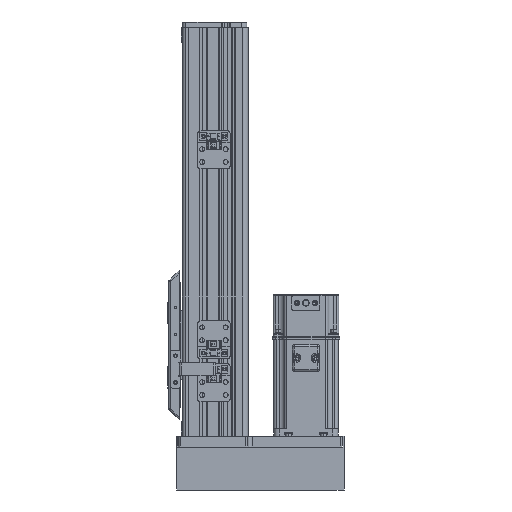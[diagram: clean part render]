
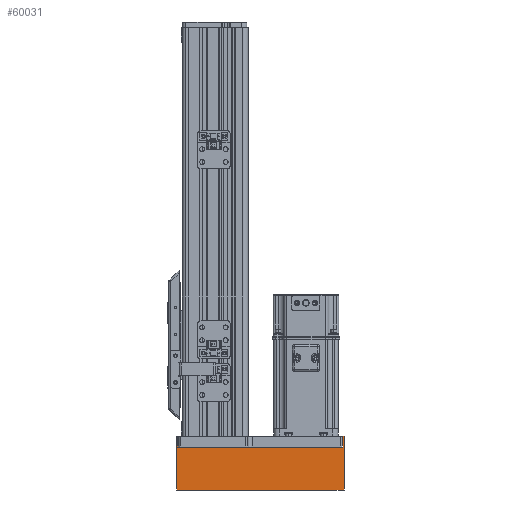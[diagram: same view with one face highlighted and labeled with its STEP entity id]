
A CAD part, left-side view. The second image highlights one B-rep face of the part: STEP entity #60031.
In plain terms, the highlighted planar face has unit normal (-1, 0, 0).
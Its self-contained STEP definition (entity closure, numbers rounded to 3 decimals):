
#14 = CARTESIAN_POINT ( 'NONE',  ( -35., 50., -90. ) ) ;
#1119 = VECTOR ( 'NONE', #32832, 1000. ) ;
#3196 = EDGE_CURVE ( 'NONE', #12496, #12922, #66949, .T. ) ;
#4754 = ORIENTED_EDGE ( 'NONE', *, *, #28593, .T. ) ;
#7235 = FACE_OUTER_BOUND ( 'NONE', #46272, .T. ) ;
#9283 = ORIENTED_EDGE ( 'NONE', *, *, #67887, .F. ) ;
#10436 = LINE ( 'NONE', #53800, #54567 ) ;
#10998 = ORIENTED_EDGE ( 'NONE', *, *, #35231, .F. ) ;
#11236 = DIRECTION ( 'NONE',  ( 0., 0., -1. ) ) ;
#11460 = ORIENTED_EDGE ( 'NONE', *, *, #31161, .F. ) ;
#11640 = VECTOR ( 'NONE', #35461, 1000. ) ;
#11882 = VERTEX_POINT ( 'NONE', #51297 ) ;
#12014 = CARTESIAN_POINT ( 'NONE',  ( -35., 50., 72.8 ) ) ;
#12496 = VERTEX_POINT ( 'NONE', #62845 ) ;
#12922 = VERTEX_POINT ( 'NONE', #24378 ) ;
#15547 = LINE ( 'NONE', #28986, #43110 ) ;
#15797 = CARTESIAN_POINT ( 'NONE',  ( -35., 50., -80.8 ) ) ;
#16188 = CARTESIAN_POINT ( 'NONE',  ( -35., 50., 74. ) ) ;
#16777 = CARTESIAN_POINT ( 'NONE',  ( -35., 0., -82. ) ) ;
#20521 = EDGE_CURVE ( 'NONE', #21795, #12496, #15547, .T. ) ;
#20930 = DIRECTION ( 'NONE',  ( 0., -1., 0. ) ) ;
#21795 = VERTEX_POINT ( 'NONE', #39823 ) ;
#23379 = VERTEX_POINT ( 'NONE', #68393 ) ;
#24378 = CARTESIAN_POINT ( 'NONE',  ( -35., 40., -80.8 ) ) ;
#25750 = LINE ( 'NONE', #67308, #11640 ) ;
#26568 = EDGE_CURVE ( 'NONE', #47151, #11882, #10436, .T. ) ;
#27240 = DIRECTION ( 'NONE',  ( 0., 0., 1. ) ) ;
#27815 = VECTOR ( 'NONE', #53707, 1000. ) ;
#28593 = EDGE_CURVE ( 'NONE', #11882, #42733, #42774, .T. ) ;
#28975 = AXIS2_PLACEMENT_3D ( 'NONE', #37030, #64253, #11236 ) ;
#28986 = CARTESIAN_POINT ( 'NONE',  ( -35., 50., 0. ) ) ;
#29194 = LINE ( 'NONE', #14, #68279 ) ;
#29402 = CARTESIAN_POINT ( 'NONE',  ( -35., 40., 72.8 ) ) ;
#31161 = EDGE_CURVE ( 'NONE', #23379, #42733, #29194, .T. ) ;
#32832 = DIRECTION ( 'NONE',  ( 0., 1., 0. ) ) ;
#34525 = VECTOR ( 'NONE', #20930, 1000. ) ;
#35231 = EDGE_CURVE ( 'NONE', #12922, #63888, #25750, .T. ) ;
#35461 = DIRECTION ( 'NONE',  ( 0., 0., 1. ) ) ;
#36059 = VECTOR ( 'NONE', #42963, 1000. ) ;
#37030 = CARTESIAN_POINT ( 'NONE',  ( -35., 50., -82. ) ) ;
#39823 = CARTESIAN_POINT ( 'NONE',  ( -35., 50., -82. ) ) ;
#41456 = PLANE ( 'NONE',  #28975 ) ;
#42733 = VERTEX_POINT ( 'NONE', #59699 ) ;
#42774 = LINE ( 'NONE', #16188, #36059 ) ;
#42963 = DIRECTION ( 'NONE',  ( 0., 1., 0. ) ) ;
#43110 = VECTOR ( 'NONE', #66890, 1000. ) ;
#44527 = LINE ( 'NONE', #12014, #27815 ) ;
#45531 = ORIENTED_EDGE ( 'NONE', *, *, #26568, .T. ) ;
#46272 = EDGE_LOOP ( 'NONE', ( #55392, #54799, #9283, #45531, #4754, #11460, #67100, #10998 ) ) ;
#47151 = VERTEX_POINT ( 'NONE', #16777 ) ;
#51297 = CARTESIAN_POINT ( 'NONE',  ( -35., 0., 74. ) ) ;
#53707 = DIRECTION ( 'NONE',  ( 0., 1., 0. ) ) ;
#53800 = CARTESIAN_POINT ( 'NONE',  ( -35., 0., 0. ) ) ;
#54047 = CARTESIAN_POINT ( 'NONE',  ( -35., 50., -82. ) ) ;
#54567 = VECTOR ( 'NONE', #27240, 1000. ) ;
#54799 = ORIENTED_EDGE ( 'NONE', *, *, #20521, .F. ) ;
#55392 = ORIENTED_EDGE ( 'NONE', *, *, #3196, .F. ) ;
#57643 = LINE ( 'NONE', #54047, #1119 ) ;
#58819 = DIRECTION ( 'NONE',  ( 0., 0., 1. ) ) ;
#59699 = CARTESIAN_POINT ( 'NONE',  ( -35., 50., 74. ) ) ;
#60031 = ADVANCED_FACE ( 'NONE', ( #7235 ), #41456, .F. ) ;
#61017 = EDGE_CURVE ( 'NONE', #63888, #23379, #44527, .T. ) ;
#62845 = CARTESIAN_POINT ( 'NONE',  ( -35., 50., -80.8 ) ) ;
#63888 = VERTEX_POINT ( 'NONE', #29402 ) ;
#64253 = DIRECTION ( 'NONE',  ( 1., 0., 0. ) ) ;
#66890 = DIRECTION ( 'NONE',  ( 0., 0., 1. ) ) ;
#66949 = LINE ( 'NONE', #15797, #34525 ) ;
#67100 = ORIENTED_EDGE ( 'NONE', *, *, #61017, .F. ) ;
#67308 = CARTESIAN_POINT ( 'NONE',  ( -35., 40., -82. ) ) ;
#67887 = EDGE_CURVE ( 'NONE', #47151, #21795, #57643, .T. ) ;
#68279 = VECTOR ( 'NONE', #58819, 1000. ) ;
#68393 = CARTESIAN_POINT ( 'NONE',  ( -35., 50., 72.8 ) ) ;
